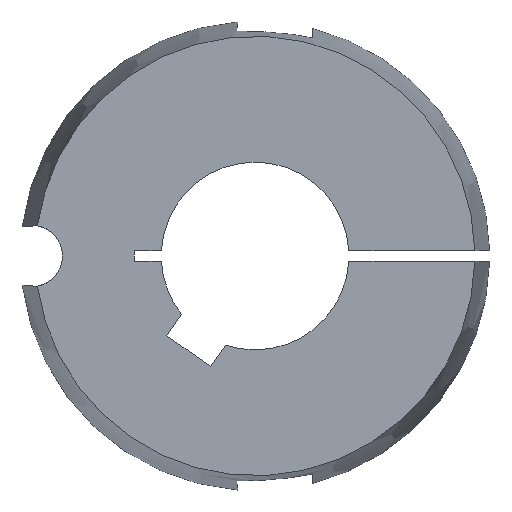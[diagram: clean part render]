
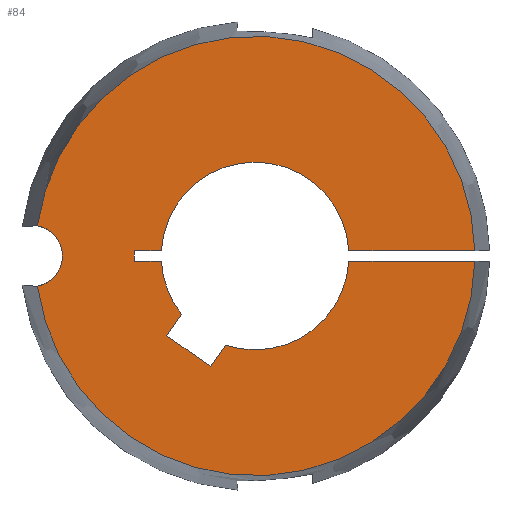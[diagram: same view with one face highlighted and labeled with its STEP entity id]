
A CAD part, left-side view. The second image highlights one B-rep face of the part: STEP entity #84.
In plain terms, the highlighted planar face has unit normal (-1, 0, 0).
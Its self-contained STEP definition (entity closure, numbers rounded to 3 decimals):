
#84 = ADVANCED_FACE( '', ( #114 ), #115, .F. );
#114 = FACE_OUTER_BOUND( '', #154, .T. );
#115 = PLANE( '', #155 );
#154 = EDGE_LOOP( '', ( #251, #252, #253, #254, #255, #256, #257, #258, #259, #260, #261, #262, #263, #264 ) );
#155 = AXIS2_PLACEMENT_3D( '', #265, #266, #267 );
#251 = ORIENTED_EDGE( '', *, *, #349, .T. );
#252 = ORIENTED_EDGE( '', *, *, #381, .F. );
#253 = ORIENTED_EDGE( '', *, *, #352, .T. );
#254 = ORIENTED_EDGE( '', *, *, #365, .T. );
#255 = ORIENTED_EDGE( '', *, *, #363, .T. );
#256 = ORIENTED_EDGE( '', *, *, #360, .T. );
#257 = ORIENTED_EDGE( '', *, *, #369, .T. );
#258 = ORIENTED_EDGE( '', *, *, #382, .T. );
#259 = ORIENTED_EDGE( '', *, *, #383, .T. );
#260 = ORIENTED_EDGE( '', *, *, #384, .T. );
#261 = ORIENTED_EDGE( '', *, *, #385, .T. );
#262 = ORIENTED_EDGE( '', *, *, #386, .T. );
#263 = ORIENTED_EDGE( '', *, *, #354, .T. );
#264 = ORIENTED_EDGE( '', *, *, #387, .F. );
#265 = CARTESIAN_POINT( '', ( -31.8, 0., 0. ) );
#266 = DIRECTION( '', ( 1., 0., 0. ) );
#267 = DIRECTION( '', ( 0., 0., -1. ) );
#349 = EDGE_CURVE( '', #402, #407, #409, .T. );
#352 = EDGE_CURVE( '', #415, #413, #416, .T. );
#354 = EDGE_CURVE( '', #418, #419, #420, .T. );
#360 = EDGE_CURVE( '', #431, #429, #432, .T. );
#363 = EDGE_CURVE( '', #436, #431, #437, .T. );
#365 = EDGE_CURVE( '', #413, #436, #439, .T. );
#369 = EDGE_CURVE( '', #429, #443, #445, .T. );
#381 = EDGE_CURVE( '', #415, #407, #465, .T. );
#382 = EDGE_CURVE( '', #443, #466, #467, .T. );
#383 = EDGE_CURVE( '', #466, #468, #469, .T. );
#384 = EDGE_CURVE( '', #468, #470, #471, .T. );
#385 = EDGE_CURVE( '', #470, #472, #473, .T. );
#386 = EDGE_CURVE( '', #472, #418, #474, .T. );
#387 = EDGE_CURVE( '', #402, #419, #475, .T. );
#402 = VERTEX_POINT( '', #521 );
#407 = VERTEX_POINT( '', #531 );
#409 = CIRCLE( '', #538, 4.6 );
#413 = VERTEX_POINT( '', #543 );
#415 = VERTEX_POINT( '', #546 );
#416 = LINE( '', #547, #548 );
#418 = VERTEX_POINT( '', #556 );
#419 = VERTEX_POINT( '', #557 );
#420 = LINE( '', #558, #559 );
#429 = VERTEX_POINT( '', #577 );
#431 = VERTEX_POINT( '', #580 );
#432 = LINE( '', #581, #582 );
#436 = VERTEX_POINT( '', #588 );
#437 = LINE( '', #589, #590 );
#439 = CIRCLE( '', #593, 14. );
#443 = VERTEX_POINT( '', #598 );
#445 = LINE( '', #601, #602 );
#465 = CIRCLE( '', #625, 32.776 );
#466 = VERTEX_POINT( '', #626 );
#467 = CIRCLE( '', #627, 14. );
#468 = VERTEX_POINT( '', #628 );
#469 = LINE( '', #629, #630 );
#470 = VERTEX_POINT( '', #631 );
#471 = LINE( '', #632, #633 );
#472 = VERTEX_POINT( '', #634 );
#473 = LINE( '', #635, #636 );
#474 = CIRCLE( '', #637, 14. );
#475 = CIRCLE( '', #638, 32.776 );
#521 = CARTESIAN_POINT( '', ( -31.8, 32.464, 4.516 ) );
#531 = CARTESIAN_POINT( '', ( -31.8, 32.464, -4.516 ) );
#538 = AXIS2_PLACEMENT_3D( '', #702, #703, #704 );
#543 = CARTESIAN_POINT( '', ( -31.8, -13.98, -0.75 ) );
#546 = CARTESIAN_POINT( '', ( -31.8, -32.768, -0.75 ) );
#547 = CARTESIAN_POINT( '', ( -31.8, -35., -0.75 ) );
#548 = VECTOR( '', #707, 1000. );
#556 = CARTESIAN_POINT( '', ( -31.8, -13.98, 0.75 ) );
#557 = CARTESIAN_POINT( '', ( -31.8, -32.768, 0.75 ) );
#558 = CARTESIAN_POINT( '', ( -31.8, 0., 0.75 ) );
#559 = VECTOR( '', #708, 1000. );
#577 = CARTESIAN_POINT( '', ( -31.8, 13.199, -11.877 ) );
#580 = CARTESIAN_POINT( '', ( -31.8, 6.646, -16.466 ) );
#581 = CARTESIAN_POINT( '', ( -31.8, 6.646, -16.466 ) );
#582 = VECTOR( '', #713, 1000. );
#588 = CARTESIAN_POINT( '', ( -31.8, 4.419, -13.284 ) );
#589 = CARTESIAN_POINT( '', ( -31.8, 4.419, -13.284 ) );
#590 = VECTOR( '', #716, 1000. );
#593 = AXIS2_PLACEMENT_3D( '', #718, #719, #720 );
#598 = CARTESIAN_POINT( '', ( -31.8, 10.972, -8.696 ) );
#601 = CARTESIAN_POINT( '', ( -31.8, 13.199, -11.877 ) );
#602 = VECTOR( '', #726, 1000. );
#625 = AXIS2_PLACEMENT_3D( '', #754, #755, #756 );
#626 = CARTESIAN_POINT( '', ( -31.8, 13.98, -0.75 ) );
#627 = AXIS2_PLACEMENT_3D( '', #757, #758, #759 );
#628 = CARTESIAN_POINT( '', ( -31.8, 18., -0.75 ) );
#629 = CARTESIAN_POINT( '', ( -31.8, 0., -0.75 ) );
#630 = VECTOR( '', #760, 1000. );
#631 = CARTESIAN_POINT( '', ( -31.8, 18., 0.75 ) );
#632 = CARTESIAN_POINT( '', ( -31.8, 18., -0.75 ) );
#633 = VECTOR( '', #761, 1000. );
#634 = CARTESIAN_POINT( '', ( -31.8, 13.98, 0.75 ) );
#635 = CARTESIAN_POINT( '', ( -31.8, 18., 0.75 ) );
#636 = VECTOR( '', #762, 1000. );
#637 = AXIS2_PLACEMENT_3D( '', #763, #764, #765 );
#638 = AXIS2_PLACEMENT_3D( '', #766, #767, #768 );
#702 = CARTESIAN_POINT( '', ( -31.8, 33.34, 0. ) );
#703 = DIRECTION( '', ( 1., 0., 0. ) );
#704 = DIRECTION( '', ( 0., 1., 0. ) );
#707 = DIRECTION( '', ( 0., 1., 0. ) );
#708 = DIRECTION( '', ( 0., -1., 0. ) );
#713 = DIRECTION( '', ( 0., 0.819, 0.574 ) );
#716 = DIRECTION( '', ( 0., 0.574, -0.819 ) );
#718 = CARTESIAN_POINT( '', ( -31.8, 0., 0. ) );
#719 = DIRECTION( '', ( 1., 0., 0. ) );
#720 = DIRECTION( '', ( 0., 0., -1. ) );
#726 = DIRECTION( '', ( 0., -0.574, 0.819 ) );
#754 = CARTESIAN_POINT( '', ( -31.8, 0., 0. ) );
#755 = DIRECTION( '', ( 1., 0., 0. ) );
#756 = DIRECTION( '', ( 0., 0., -1. ) );
#757 = CARTESIAN_POINT( '', ( -31.8, 0., 0. ) );
#758 = DIRECTION( '', ( 1., 0., 0. ) );
#759 = DIRECTION( '', ( 0., 0., -1. ) );
#760 = DIRECTION( '', ( 0., 1., 0. ) );
#761 = DIRECTION( '', ( 0., 0., 1. ) );
#762 = DIRECTION( '', ( 0., -1., 0. ) );
#763 = CARTESIAN_POINT( '', ( -31.8, 0., 0. ) );
#764 = DIRECTION( '', ( 1., 0., 0. ) );
#765 = DIRECTION( '', ( 0., 0., -1. ) );
#766 = CARTESIAN_POINT( '', ( -31.8, 0., 0. ) );
#767 = DIRECTION( '', ( 1., 0., 0. ) );
#768 = DIRECTION( '', ( 0., 0., -1. ) );
